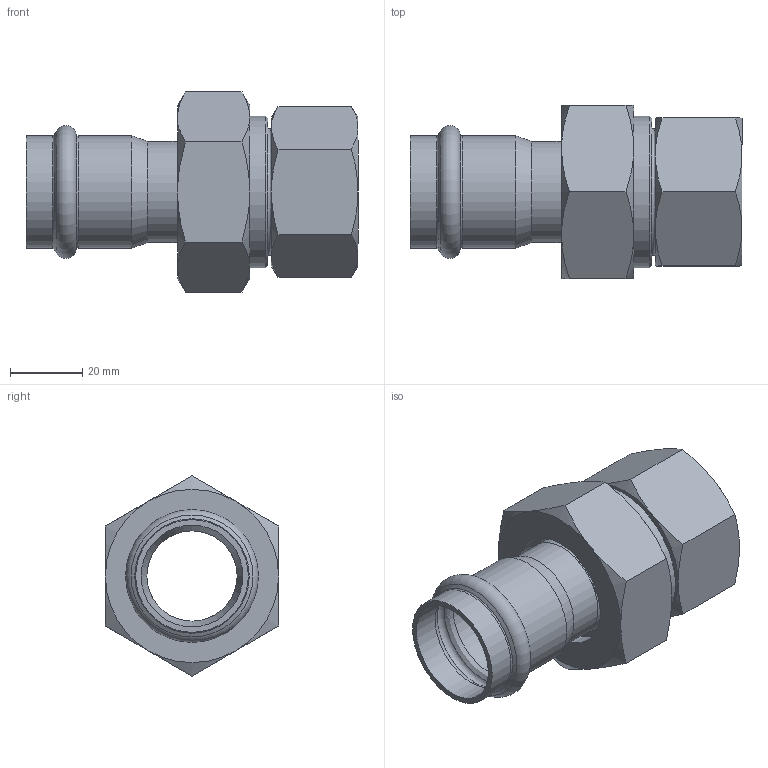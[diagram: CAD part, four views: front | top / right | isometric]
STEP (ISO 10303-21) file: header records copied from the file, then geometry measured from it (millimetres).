
FILE_DESCRIPTION((''),'2;1');
FILE_NAME('G:\Nirosan-Schmiedefeld\Technics\CAD\Bauteile VA\028\69330g281(3).stp','2011-05-25T10:47:54',('herberg'),(''),'Autodesk Inventor 2009','Autodesk Inventor 2009','');
FILE_SCHEMA(('AUTOMOTIVE_DESIGN { 1 0 10303 214 1 1 1 1 }'));
Length unit declared in the file: millimetre
Products named in the file (7): 69330g281(3); 69359mms28114(1); HM_6924328(1); R28114(0); FD_3827_EPDM(0); MS_SM28114(2); 69370G1141(2)
Assembly tree (6 placements, depth 3):
  69330g281(3)
    69359mms28114(1)
      HM_6924328(1)
      R28114(0)
      FD_3827_EPDM(0)
      MS_SM28114(2)
    69370G1141(2)
Bounding box: 92 x 48 x 55.43 mm (x, y, z)
Volume: 56296 mm3; surface area: 31971.5 mm2
Topology: 5 solids, 5 shells, 84 faces, 166 edges, 97 vertices
Faces by surface type: cone 33, plane 25, bspline 12, cylinder 12, torus 2
Full cylindrical faces by diameter (mm): 25 x2, 27 x1, 28 x2, 28.2 x2, 31.2 x2, 38 x2, 41.91 x1
Entity records: 2459 total; most frequent: CARTESIAN_POINT 791, DIRECTION 322, ORIENTED_EDGE 260, AXIS2_PLACEMENT_3D 155, EDGE_LOOP 132, EDGE_CURVE 130, VERTEX_POINT 94, FACE_OUTER_BOUND 84
